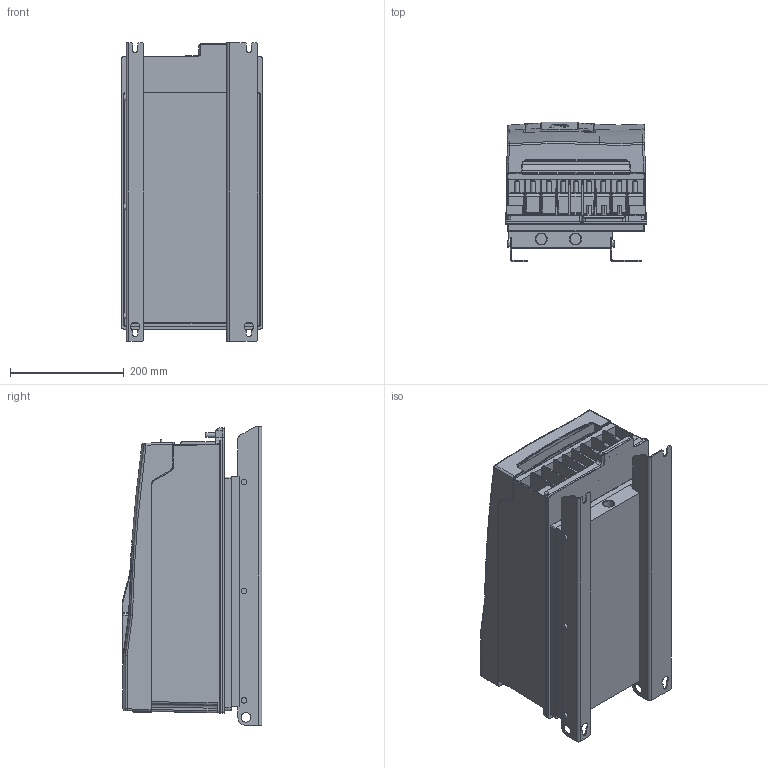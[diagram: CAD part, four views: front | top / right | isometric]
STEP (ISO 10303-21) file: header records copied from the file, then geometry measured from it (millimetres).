
FILE_DESCRIPTION (( 'STEP AP214' ), '1' );
FILE_NAME ('F6-6TK0-A010 neu.STEP', '2024-06-10T07:53:02', ( '' ), ( '' ), 'SwSTEP 2.0', 'SolidWorks 2022', '' );
FILE_SCHEMA (( 'AUTOMOTIVE_DESIGN' ));
Length unit declared in the file: millimetre
Products named in the file (13): Kundenmodell^10044643_000; 10027052_000_Gehäusebaugruppe F6-6 (Kundenmodell); 10059764_000_Blindabdeckung (Kundenmodell); Kundenmodell^10077991_000; 10061793_000_Deckelbaugruppe F6-6 (Kundenmodell); 10044643_000_Kundenmodell; Kundenmodell^10061793_000; F6-6TK0-A010 neu; Kundenmodell^10059764_000; Kundemmodell^10027377_000; 10077991_000_Kundenmodell; 10027377_000_Kundenmodell; Kundenmodell^10027052_000
Assembly tree (12 placements, depth 4):
  F6-6TK0-A010 neu
    10077991_000_Kundenmodell
      10027377_000_Kundenmodell
        Kundemmodell^10027377_000
      Kundenmodell^10077991_000
    10027052_000_Gehäusebaugruppe F6-6 (Kundenmodell)
      10061793_000_Deckelbaugruppe F6-6 (Kundenmodell)
        Kundenmodell^10061793_000
      Kundenmodell^10027052_000
    10044643_000_Kundenmodell
      10059764_000_Blindabdeckung (Kundenmodell)
        Kundenmodell^10059764_000
      Kundenmodell^10044643_000
Bounding box: 249 x 245.4 x 525 mm (x, y, z)
Volume: 21185628.2 mm3; surface area: 1398905.4 mm2
Topology: 16 solids, 36 shells, 3057 faces, 7549 edges, 4485 vertices
Faces by surface type: cylinder 1094, plane 989, bspline 581, torus 155, sphere 133, cone 105
Entity records: 101984 total; most frequent: CARTESIAN_POINT 34302, ORIENTED_EDGE 14774, DIRECTION 13199, EDGE_CURVE 7387, AXIS2_PLACEMENT_3D 4802, VERTEX_POINT 4483, LINE 3595, VECTOR 3595
